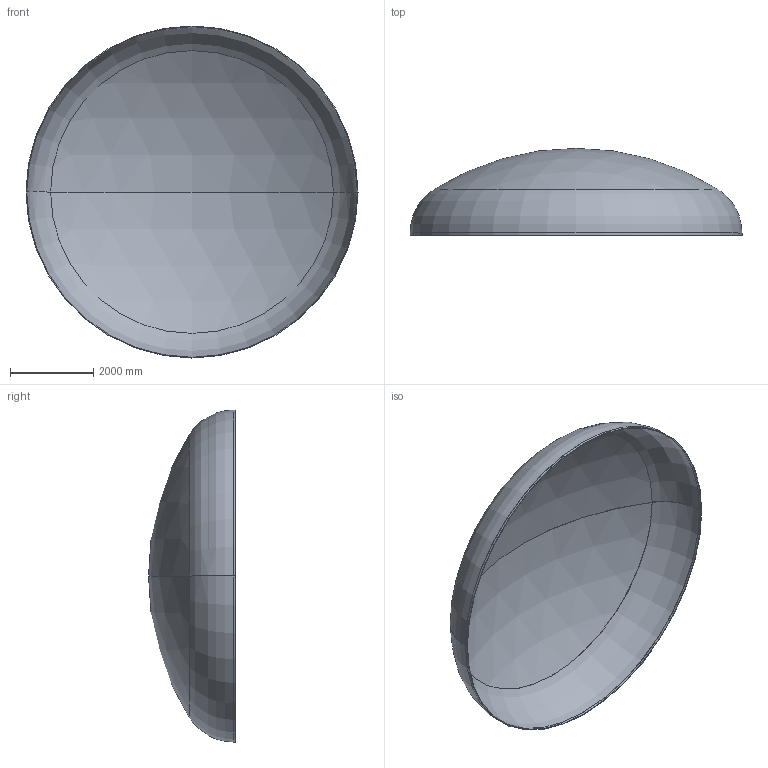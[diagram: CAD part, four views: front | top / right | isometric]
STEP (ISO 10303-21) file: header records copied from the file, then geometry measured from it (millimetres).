
FILE_DESCRIPTION (( 'STEP AP203' ), '1' );
FILE_NAME ('DIN 28013 Korbbogenform_-_Boden DIN 28013 - 8000 x 55 - I - s=17.step', '2016-07-04T10:58:56', ( '' ), ( '' ), 'SwSTEP 2.0', 'SolidWorks 2013', '' );
FILE_SCHEMA (( 'CONFIG_CONTROL_DESIGN' ));
Length unit declared in the file: millimetre
Products named in the file (1): DIN 28013 Korbbogenform_-_Boden DIN 28013 - 8000 x 55 - I - s=17
Bounding box: 8000 x 2095.94 x 8000 mm (x, y, z)
Volume: 1203350278.5 mm3; surface area: 141997516.5 mm2
Topology: 1 solids, 1 shells, 13 faces, 24 edges, 14 vertices
Faces by surface type: torus 4, cylinder 4, sphere 4, plane 1
Entity records: 407 total; most frequent: DIRECTION 72, CARTESIAN_POINT 52, ORIENTED_EDGE 48, AXIS2_PLACEMENT_3D 34, EDGE_CURVE 24, CIRCLE 20, EDGE_LOOP 14, VERTEX_POINT 14
